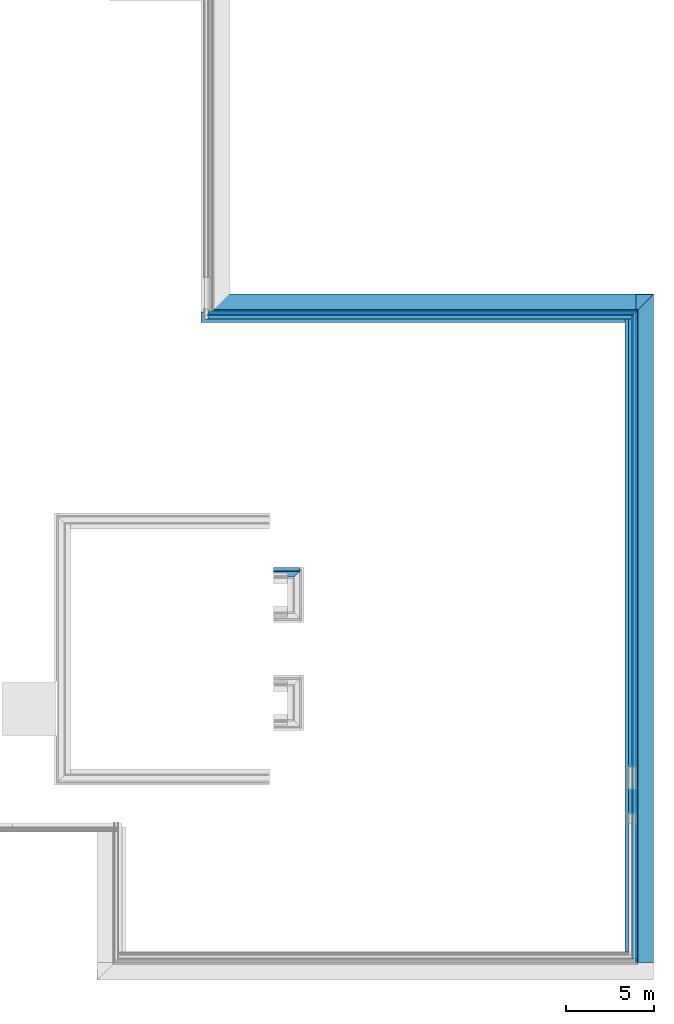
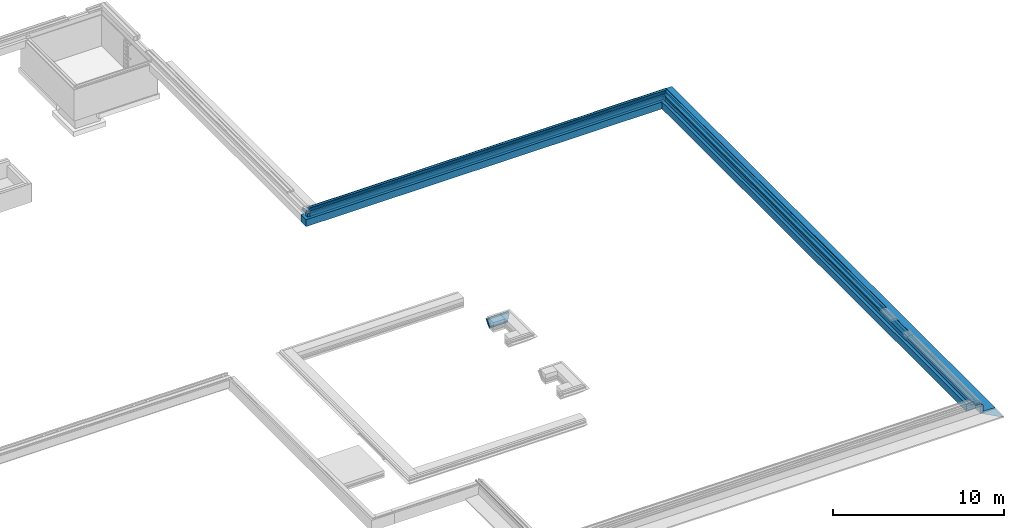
# One storey, part 11 of 17: 32 building element parts, 5 elements without a shape of their own.
"""IFC2X3 building model written with IfcOpenShell, lengths in millimetres."""

from ifc_helpers import new_model, entity, si_unit, converted_unit, derived_unit, money_unit, direction, frame, origin_with_axes, place, context, subcontext, project, spatial, faceted_brep, material, type_object, element, aggregate, save


model = new_model("IFC2X3")

# Units and contexts
model_context = context("Model", 3, precision=0.01, world=origin_with_axes(), true_north=direction((0.0, 1.0)))
body_context = subcontext(model_context, "Body", "Model", "MODEL_VIEW")
ifc_project = project(units=[si_unit("LENGTHUNIT", "METRE", prefix="MILLI"), si_unit("AREAUNIT", "SQUARE_METRE"), si_unit("VOLUMEUNIT", "CUBIC_METRE"), converted_unit("PLANEANGLEUNIT", "DEGREE", entity("IfcPlaneAngleMeasure", 0.0174532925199), si_unit("PLANEANGLEUNIT", "RADIAN"), dimensions=[0, 0, 0, 0, 0, 0, 0]), money_unit("EUR"), converted_unit("TIMEUNIT", "Year", entity("IfcTimeMeasure", 31556926.0), si_unit("TIMEUNIT", "SECOND"), dimensions=[0, 0, 1, 0, 0, 0, 0]), si_unit("MASSUNIT", "GRAM", prefix="KILO"), si_unit("THERMODYNAMICTEMPERATUREUNIT", "DEGREE_CELSIUS"), si_unit("LUMINOUSINTENSITYUNIT", "LUMEN"), si_unit("ENERGYUNIT", "JOULE", prefix="MEGA"), derived_unit("THERMALCONDUCTANCEUNIT", [(si_unit("POWERUNIT", "WATT"), 1), (si_unit("LENGTHUNIT", "METRE"), -1), (si_unit("THERMODYNAMICTEMPERATUREUNIT", "KELVIN"), -1)]), derived_unit("SPECIFICHEATCAPACITYUNIT", [(si_unit("ENERGYUNIT", "JOULE"), 1), (si_unit("MASSUNIT", "GRAM", prefix="KILO"), -1), (si_unit("THERMODYNAMICTEMPERATUREUNIT", "KELVIN"), -1)]), derived_unit("MASSDENSITYUNIT", [(si_unit("MASSUNIT", "GRAM", prefix="KILO"), 1), (si_unit("VOLUMEUNIT", "CUBIC_METRE"), -1)])], contexts=[model_context])

# Site, building, storey
site_placement = place(None, origin_with_axes())
site = spatial("IfcSite", under=ifc_project, at=site_placement, Name="Kolde pst 67a", CompositionType="ELEMENT")
building_placement = place(site_placement, origin_with_axes())
building = spatial("IfcBuilding", under=site, at=building_placement, Name="Riigigümnaasium", CompositionType="ELEMENT")
storey_placement = place(building_placement, frame((0.0, 0.0, -1500.0), z_axis=(0.0, 0.0, 1.0), x_axis=(1.0, 0.0, 0.0)))
storey = spatial("IfcBuildingStorey", under=building, at=storey_placement, Name="Vundament", CompositionType="ELEMENT", Elevation=-1500.0)

# Wall, building element parts
wall_type_1 = type_object("IfcWallType", Name="Lintvundament 1602 x 765", PredefinedType="NOTDEFINED")
wall_1_placement = place(storey_placement, frame((84439.9993279, 40.0, 1479.99999851), z_axis=(0.0, 0.0, 1.0), x_axis=(0.0, 1.0, 0.0)))
wall_1 = element("IfcWall", 1, at=wall_1_placement, inside=storey, type_object=wall_type_1, Name="Vundament")
ifc_material_1 = material(Name="_KANDETARIND - monoliitne raudbetoon vastavalt EK osale")
building_element_part_1_placement = place(wall_1_placement, origin_with_axes())
building_element_part_1 = element("IfcBuildingElementPart", 2, at=building_element_part_1_placement, material=ifc_material_1, Name="_KANDETARIND - monoliitne raudbetoon vastavalt EK osale", context=body_context, shape_type="Brep", body=[
    faceted_brep([(399.942555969, 399.942555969, -750.0), (399.942555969, 399.942555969, -250.0), (36600.0571373, 399.942555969, -250.000008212), (36600.0571373, 399.942555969, -750.0), (399.942555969, -200.057444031, -750.0), (399.942555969, -200.057444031, -250.0), (399.942555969, 0.0, -250.0), (399.942555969, 200.0, -250.0), (36399.9996998, 200.0, -250.0), (36600.0571373, 200.0, -250.000004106), (36600.0571373, 0.0, -250.000004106), (36600.0571373, -200.057444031, -250.000008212), (36600.0571373, -200.057444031, -750.0), (36399.9996998, 0.0, -250.0), (200.0, 0.0, -250.0), (200.0, 200.0, -250.0), (200.0, 200.0, 0.0), (36399.9996998, 200.0, 3.32716632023e-07), (36399.9996998, 0.0, 3.32716632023e-07), (200.0, 0.0, 0.0)], [[[0, 1, 2, 3]], [[1, 0, 4, 5, 6, 7]], [[1, 7, 8, 9, 2]], [[3, 2, 9, 10, 11, 12]], [[0, 3, 12, 4]], [[5, 4, 12, 11]], [[9, 8, 13, 6, 5, 11, 10]], [[14, 15, 7, 6]], [[15, 16, 17, 8, 7]], [[8, 17, 18, 13]], [[14, 6, 13, 18, 19]], [[16, 15, 14, 19]], [[18, 17, 16, 19]]]),
])
ifc_material_2 = material(Name="_SOOJUSTUS - ekstrudeeritud polüstüreenist plaadid XPS 250, survetugevus min 250kPa, soojuserijuhtivus λD<0,036 W/(mK), veeimavus alla 0,2%, näiteks XPS 250 foam SL või samaväärne")
building_element_part_2_placement = place(wall_1_placement, origin_with_axes())
building_element_part_2 = element("IfcBuildingElementPart", 3, at=building_element_part_2_placement, material=ifc_material_2, Name="_SOOJUSTUS - ekstrudeeritud polüstüreenist plaadid XPS 250, survetugevus min 250kPa, soojuserijuhtivus λD<0,036 W/(mK), veeimavus alla 0,2%, näiteks XPS 250 foam SL või samaväärne", context=body_context, shape_type="Brep", body=[
    faceted_brep([(36472.9997011, -3.00000241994, -146.999999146), (-3.00000241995, -3.00000241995, -146.999999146), (-3.00000241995, -3.00000241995, -3.76120343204e-06), (36472.9997011, -3.00000241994, -2.23078100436e-06), (36472.9997011, -73.0000017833, -146.999999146), (-3.00000241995, -73.0000017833, -146.999999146), (-3.00000241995, -73.0000017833, -3.76120343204e-06), (36472.9997011, -73.0000017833, -2.23078100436e-06)], [[[0, 1, 2, 3]], [[0, 4, 5, 1]], [[2, 1, 5, 6]], [[3, 2, 6, 7]], [[4, 0, 3, 7]], [[5, 4, 7, 6]]]),
])
ifc_material_3 = material(Name="_SOOJUSTUS - vahtpolüstüreenplaadid EPS 120 Perimeeter, survetugevus min 120kPa, veeimavus <2%, soojuserijuhtivus λD<0,036 W/(mK)")
building_element_part_3_placement = place(wall_1_placement, origin_with_axes())
building_element_part_3 = element("IfcBuildingElementPart", 4, at=building_element_part_3_placement, material=ifc_material_3, Name="_SOOJUSTUS - vahtpolüstüreenplaadid EPS 120 Perimeeter, survetugevus min 120kPa, veeimavus <2%, soojuserijuhtivus λD<0,036 W/(mK)", context=body_context, shape_type="Brep", body=[
    faceted_brep([(-73.0000013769, -73.0000013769, -146.999999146), (-73.0000013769, -73.0000013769, -2.23078107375e-06), (36622.9997013, -73.0000013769, -1.37334278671e-06), (36622.9997013, -73.0000013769, -146.999999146), (-73.0000013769, -223.000000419, -146.999999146), (-73.0000013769, -223.000000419, -2.23078107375e-06), (36622.9997013, -223.000000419, -1.37334278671e-06), (36622.9997013, -223.000000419, -146.999999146)], [[[0, 1, 2, 3]], [[1, 0, 4, 5]], [[2, 1, 5, 6]], [[3, 2, 6, 7]], [[0, 3, 7, 4]], [[5, 4, 7, 6]]]),
])
building_element_part_4_placement = place(wall_1_placement, origin_with_axes())
building_element_part_4 = element("IfcBuildingElementPart", 5, at=building_element_part_4_placement, material=ifc_material_3, Name="_SOOJUSTUS - vahtpolüstüreenplaadid EPS 120 Perimeeter, survetugevus min 120kPa, veeimavus <2%, soojuserijuhtivus λD<0,036 W/(mK)", context=body_context, shape_type="Brep", body=[
    faceted_brep([(36703.0571403, -303.057446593, -247.000001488), (36703.0571403, -303.057446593, -146.999992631), (-3.00000241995, -303.057446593, -146.99999851), (-3.00000241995, -303.057446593, -247.000001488), (36703.0571403, -3.00000241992, -146.999992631), (36703.0571403, -3.00000241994, -247.000001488), (-3.00000241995, -3.00000241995, -146.99999851), (-3.00000241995, -3.00000241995, -247.000001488)], [[[0, 1, 2, 3]], [[4, 1, 0, 5]], [[1, 4, 6, 2]], [[3, 2, 6, 7]], [[5, 0, 3, 7]], [[4, 5, 7, 6]]]),
])
ifc_material_4 = material(Name="_HÜDROISOLATSIOON - Bituumenvõõp COMBIFLEX-EL vastavalt TL2 nõuetele")
building_element_part_5_placement = place(wall_1_placement, origin_with_axes())
building_element_part_5 = element("IfcBuildingElementPart", 6, at=building_element_part_5_placement, material=ifc_material_4, Name="_HÜDROISOLATSIOON - Bituumenvõõp COMBIFLEX-EL vastavalt TL2 nõuetele", context=body_context, shape_type="Brep", body=[
    faceted_brep([(0.0, 0.0, -250.000008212), (0.0, 0.0, 3.32716632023e-07), (36402.9997022, 0.0, -3.7612034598e-06), (36402.9997022, 0.0, -247.000001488), (36603.0571438, 0.0, -246.99999851), (36603.0571438, 0.0, -250.000008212), (0.0, -200.057437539, -250.000008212), (0.0, -203.057435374, -250.000008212), (0.0, -203.057435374, -247.000001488), (0.0, -2.99999783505, -246.999999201), (0.0, -2.99999783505, 3.32716632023e-07), (36402.9997022, -2.99999783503, -3.7612034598e-06), (36402.9997022, -2.99999783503, -246.999999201), (36603.0571438, -203.057435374, -246.999999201), (36603.0572468, -203.057435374, -729.999997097), (36603.0571342, -203.057435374, -750.000008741), (36603.0571342, -200.057437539, -750.000008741), (36603.0571438, -200.057437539, -250.000008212), (-200.057437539, -200.057437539, -250.000008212), (-200.057437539, -203.057435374, -250.000008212), (-200.057437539, -203.057435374, -729.999997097), (-200.057437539, -203.057435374, -750.000008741), (-200.057437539, -200.057437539, -750.000008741)], [[[0, 1, 2, 3, 4, 5]], [[1, 0, 6, 7, 8, 9, 10]], [[1, 10, 11, 2]], [[3, 2, 11, 12]], [[4, 3, 12, 9, 8, 13]], [[5, 4, 13, 14, 15, 16, 17]], [[0, 5, 17, 6]], [[6, 18, 19, 7]], [[19, 20, 14, 13, 8, 7]], [[12, 11, 10, 9]], [[20, 21, 15, 14]], [[22, 16, 15, 21]], [[22, 18, 6, 17, 16]], [[18, 22, 21, 20, 19]]]),
])
ifc_material_5 = material(Name="_TUULETÕKE - sokli krohv, silikoonvaikkrohv Weber.pas 481 AquaBalance 1mm \"scratch\" viimistlus, toon helehall CL444 (S 3502-Y) * 35, SILS süsteem, või samaväärne")
building_element_part_6_placement = place(wall_1_placement, origin_with_axes())
building_element_part_6 = element("IfcBuildingElementPart", 7, at=building_element_part_6_placement, material=ifc_material_5, Name="_TUULETÕKE - sokli krohv, silikoonvaikkrohv Weber.pas 481 AquaBalance 1mm \"scratch\" viimistlus, toon helehall CL444 (S 3502-Y) * 35, SILS süsteem, või samaväärne", context=body_context, shape_type="Brep", body=[
    faceted_brep([(-223.000001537, -223.000001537, -146.999999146), (-223.000001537, -223.000001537, -1.37334278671e-06), (36632.9997125, -223.000001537, 3.32716632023e-07), (36632.9997023, -223.000001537, -146.999999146), (-223.000001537, -233.000001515, -146.999999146), (-223.000001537, -233.00000247, -30.0000036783), (-223.000001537, -233.000001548, -1.37334278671e-06), (36632.9997125, -233.000001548, 3.32716632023e-07), (36632.9997125, -233.000002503, -29.9999875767), (36632.9997023, -233.000001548, -146.999999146)], [[[0, 1, 2, 3]], [[1, 0, 4, 5, 6]], [[2, 1, 6, 7]], [[3, 2, 7, 8, 9]], [[0, 3, 9, 4]], [[5, 4, 9, 8]], [[6, 5, 8, 7]]]),
])
ifc_material_6 = material(Name="_HÜDROISOLATSIOON - tsemendil baseeruv ühekomponentne hüdroisolatsioon hüdroisoleerimiseks sokli krohvi pealt, ülevärvitud silikoonvaikvärviga sokli krohvi tooni, Weber.tec 824 ja Weber.ton 411 AquaBalance toon CL444 (S 3502-Y) * 35 või samaväärne")
building_element_part_7_placement = place(wall_1_placement, origin_with_axes())
building_element_part_7 = element("IfcBuildingElementPart", 8, at=building_element_part_7_placement, material=ifc_material_6, Name="_HÜDROISOLATSIOON - tsemendil baseeruv ühekomponentne hüdroisolatsioon hüdroisoleerimiseks sokli krohvi pealt, ülevärvitud silikoonvaikvärviga sokli krohvi tooni, Weber.tec 824 ja Weber.ton 411 AquaBalance toon CL444 (S 3502-Y) * 35 või samaväärne", context=body_context, shape_type="Brep", body=[
    faceted_brep([(-233.000002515, -233.000002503, -147.000002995), (-233.000002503, -233.000002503, -30.0000036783), (36634.9996932, -233.000002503, -29.9999946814), (36634.9996932, -233.000002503, -146.999992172), (-233.000002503, -234.99999634, -146.999993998), (-233.000002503, -234.99999634, -30.0000036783), (36634.9996932, -234.99999634, -29.9999946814), (36634.9996932, -234.99999634, -146.999992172)], [[[0, 1, 2, 3]], [[1, 0, 4, 5]], [[2, 1, 5, 6]], [[3, 2, 6, 7]], [[0, 3, 7, 4]], [[5, 4, 7, 6]]]),
])
building_element_part_8_placement = place(wall_1_placement, origin_with_axes())
building_element_part_8 = element("IfcBuildingElementPart", 9, at=building_element_part_8_placement, material=ifc_material_3, Name="_SOOJUSTUS - vahtpolüstüreenplaadid EPS 120 Perimeeter, survetugevus min 120kPa, veeimavus <2%, soojuserijuhtivus λD<0,036 W/(mK)", context=body_context, shape_type="Brep", body=[
    faceted_brep([(36703.05714, -303.057446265, -629.93015656), (36703.05714, -303.057446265, -247.000001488), (-203.057444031, -303.057446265, -246.99999851), (-203.057444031, -303.057446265, -629.930162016), (-303.057446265, -303.057446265, -633.422240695), (36703.0572638, -303.057446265, -633.422240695), (36703.05714, -203.057444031, -247.000001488), (36703.05714, -203.057444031, -629.93015656), (-203.057444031, -203.057444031, -246.99999851), (-203.057444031, -203.057444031, -629.930162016)], [[[0, 1, 2, 3, 4, 5]], [[6, 1, 0, 7]], [[1, 6, 8, 2]], [[9, 3, 2, 8]], [[4, 3, 9]], [[5, 4, 9, 7]], [[7, 0, 5]], [[6, 7, 9, 8]]]),
])
ifc_material_7 = material(Name="_ALUSKATE - drenaaži- ja kaitsematt geotekstiiliga soojustuse kaitseks, Interplast Iso-Drain 8 Geo või samaväärne")
building_element_part_9_placement = place(wall_1_placement, origin_with_axes())
building_element_part_9 = element("IfcBuildingElementPart", 10, at=building_element_part_9_placement, material=ifc_material_7, Name="_ALUSKATE - drenaaži- ja kaitsematt geotekstiiliga soojustuse kaitseks, Interplast Iso-Drain 8 Geo või samaväärne", context=body_context, shape_type="Brep", body=[
    faceted_brep([(-234.999993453, -245.000004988, -137.03058496), (-234.999993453, -313.057436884, -137.03058496), (36713.0571519, -313.057436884, -137.03058496), (36713.0571519, -245.000004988, -137.03058496), (36644.9996942, -245.000004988, -137.03058496), (-234.999993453, -313.057436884, -146.999992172), (-234.999993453, -245.000004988, -29.9999946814), (-234.999993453, -234.999993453, -29.9999946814), (-234.999993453, -234.999993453, -146.999992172), (-234.999993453, -303.057440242, -146.999992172), (-303.05744035, -313.057436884, -146.999999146), (-303.057440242, -313.057436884, -629.93015656), (-303.057564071, -313.057436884, -633.422240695), (-313.057436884, -313.057436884, -633.771447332), (36713.0571519, -313.057436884, -633.771442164), (36713.0571519, -303.057440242, -633.422236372), (36713.0571519, -303.057440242, -146.999992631), (36713.0571519, -234.999993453, -146.999992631), (36713.0571519, -234.999993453, -137.03058496), (36644.9996942, -234.999993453, -137.03058496), (36644.9996942, -245.000004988, -29.9999875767), (36644.9996942, -234.999993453, -29.9999875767), (-303.05744035, -303.057440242, -146.999999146), (-303.057440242, -303.057440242, -629.93015656), (-303.057564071, -303.057440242, -633.422240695)], [[[0, 1, 2, 3, 4]], [[5, 1, 0, 6, 7, 8, 9]], [[5, 10, 11, 12, 13, 14, 2, 1]], [[3, 2, 14, 15, 16, 17, 18]], [[3, 18, 19, 4]], [[6, 0, 4, 20]], [[7, 6, 20, 21]], [[8, 7, 21, 19, 18, 17]], [[9, 8, 17, 16]], [[10, 5, 9, 22]], [[10, 22, 23, 11]], [[24, 12, 11, 23]], [[12, 24, 13]], [[13, 24, 15, 14]], [[22, 9, 16, 15, 24, 23]], [[20, 4, 19, 21]]]),
])
building_element_part_10_placement = place(wall_1_placement, origin_with_axes())
building_element_part_10 = element("IfcBuildingElementPart", 11, at=building_element_part_10_placement, material=ifc_material_3, Name="_SOOJUSTUS - vahtpolüstüreenplaadid EPS 120 Perimeeter, survetugevus min 120kPa, veeimavus <2%, soojuserijuhtivus λD<0,036 W/(mK)", context=body_context, shape_type="Brep", body=[
    faceted_brep([(36713.0571366, -203.057444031, -633.771447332), (36603.0571438, -203.057444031, -629.930162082), (36713.0571366, -313.057436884, -633.771447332), (37602.4655769, -1202.46588158, -664.830280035), (37602.4655769, -203.057444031, -664.830280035), (37600.1897963, -203.057444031, -729.999997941), (-203.057444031, -203.057444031, -729.999997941), (-203.057444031, -203.057444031, -629.93015656), (-203.057444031, -313.057436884, -633.771447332), (-203.057444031, -1202.46588158, -664.830280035), (37598.9756209, -1198.97593138, -764.769370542), (-1198.97593138, -1198.97593138, -764.769370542), (-203.057444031, -1200.19010474, -729.999997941)], [[[0, 1, 2, 3, 4]], [[1, 0, 4, 5, 6, 7]], [[1, 7, 8, 2]], [[8, 9, 3, 2]], [[4, 3, 10, 5]], [[11, 6, 5, 10]], [[12, 9, 8, 7, 6]], [[11, 10, 3, 9, 12]], [[6, 11, 12]]]),
])
aggregate(wall_1, [building_element_part_1, building_element_part_2, building_element_part_3, building_element_part_4, building_element_part_5, building_element_part_6, building_element_part_7, building_element_part_8, building_element_part_9, building_element_part_10])

wall_2_placement = place(storey_placement, frame((84439.9993279, 36439.9996998, 1479.99999851), z_axis=(0.0, 0.0, 1.0), x_axis=(-1.0, 0.0, 0.0)))
wall_2 = element("IfcWall", 12, at=wall_2_placement, inside=storey, type_object=wall_type_1, Name="Vundament")
building_element_part_11_placement = place(wall_2_placement, origin_with_axes())
building_element_part_11 = element("IfcBuildingElementPart", 13, at=building_element_part_11_placement, material=ifc_material_1, Name="_KANDETARIND - monoliitne raudbetoon vastavalt EK osale", context=body_context, shape_type="Brep", body=[
    faceted_brep([(200.0, 200.0, 0.0), (200.0, 0.0, 0.0), (24200.0051976, 0.0, 3.32716632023e-07), (24200.0051976, 200.0, 3.32716632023e-07), (200.0, 200.0, -250.0), (200.0, 0.0, -250.0), (399.942555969, 0.0, -250.0), (24200.0051976, 0.0, -249.999997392), (24200.0051976, 200.0, -249.999997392), (399.942555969, 200.0, -250.0), (24399.9477572, -200.057444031, -249.999997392), (24399.9477572, 200.0, -249.999997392), (399.942555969, -200.057444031, -250.0), (24399.9477572, 399.942555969, -249.999997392), (399.942555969, 399.942555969, -250.0), (399.942555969, 399.942555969, -750.0), (399.942555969, -200.057444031, -750.0), (24399.9477572, 399.942555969, -749.999992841), (24399.9477572, -200.057444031, -749.999992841)], [[[0, 1, 2, 3]], [[1, 0, 4, 5]], [[1, 5, 6, 7, 2]], [[7, 8, 3, 2]], [[0, 3, 8, 9, 4]], [[6, 5, 4, 9]], [[10, 11, 8, 7, 6, 12]], [[13, 14, 9, 8, 11]], [[9, 14, 15, 16, 12, 6]], [[17, 13, 11, 10, 18]], [[12, 16, 18, 10]], [[14, 13, 17, 15]], [[16, 15, 17, 18]]]),
])
building_element_part_12_placement = place(wall_2_placement, origin_with_axes())
building_element_part_12 = element("IfcBuildingElementPart", 14, at=building_element_part_12_placement, material=ifc_material_2, Name="_SOOJUSTUS - ekstrudeeritud polüstüreenist plaadid XPS 250, survetugevus min 250kPa, soojuserijuhtivus λD<0,036 W/(mK), veeimavus alla 0,2%, näiteks XPS 250 foam SL või samaväärne", context=body_context, shape_type="Brep", body=[
    faceted_brep([(23997.0052079, -3.00000241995, -146.999999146), (23997.0052079, -3.00000241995, -2.35946218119e-06), (23997.0052079, -73.0000017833, -2.35946218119e-06), (23997.0052079, -73.0000017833, -146.999999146), (-3.00000241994, -3.00000241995, -146.999999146), (-3.00000241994, -3.00000241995, -3.76120343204e-06), (-3.00000241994, -73.0000017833, -3.76120343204e-06), (-3.00000241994, -73.0000017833, -146.999999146)], [[[0, 1, 2, 3]], [[1, 0, 4, 5]], [[2, 1, 5, 6]], [[3, 2, 6, 7]], [[0, 3, 7, 4]], [[5, 4, 7, 6]]]),
])
building_element_part_13_placement = place(wall_2_placement, origin_with_axes())
building_element_part_13 = element("IfcBuildingElementPart", 15, at=building_element_part_13_placement, material=ifc_material_3, Name="_SOOJUSTUS - vahtpolüstüreenplaadid EPS 120 Perimeeter, survetugevus min 120kPa, veeimavus <2%, soojuserijuhtivus λD<0,036 W/(mK)", context=body_context, shape_type="Brep", body=[
    faceted_brep([(23927.0052039, -73.0000013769, -146.999999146), (23927.0052039, -223.000000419, -146.999999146), (-73.0000013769, -223.000000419, -146.999999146), (-73.0000013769, -73.0000013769, -146.999999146), (23927.0052039, -73.0000013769, -3.76120343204e-06), (23927.0052039, -223.000000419, -3.76120343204e-06), (-73.0000013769, -223.000000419, -2.23078100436e-06), (-73.0000013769, -73.0000013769, -2.23078100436e-06)], [[[0, 1, 2, 3]], [[0, 4, 5, 1]], [[1, 5, 6, 2]], [[7, 3, 2, 6]], [[4, 0, 3, 7]], [[5, 4, 7, 6]]]),
])
building_element_part_14_placement = place(wall_2_placement, origin_with_axes())
building_element_part_14 = element("IfcBuildingElementPart", 16, at=building_element_part_14_placement, material=ifc_material_3, Name="_SOOJUSTUS - vahtpolüstüreenplaadid EPS 120 Perimeeter, survetugevus min 120kPa, veeimavus <2%, soojuserijuhtivus λD<0,036 W/(mK)", context=body_context, shape_type="Brep", body=[
    faceted_brep([(23997.0052092, -303.057446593, -246.999998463), (23997.0052092, -303.057446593, -146.999999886), (-3.00000241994, -303.057446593, -146.99999851), (-3.00000241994, -303.057446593, -247.000001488), (23997.0052092, -3.00000241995, -146.999999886), (23997.0052092, -3.00000241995, -246.999998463), (-3.00000241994, -3.00000241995, -146.99999851), (-3.00000241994, -3.00000241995, -247.000001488)], [[[0, 1, 2, 3]], [[4, 1, 0, 5]], [[1, 4, 6, 2]], [[6, 7, 3, 2]], [[5, 0, 3, 7]], [[4, 5, 7, 6]]]),
])
building_element_part_15_placement = place(wall_2_placement, origin_with_axes())
building_element_part_15 = element("IfcBuildingElementPart", 17, at=building_element_part_15_placement, material=ifc_material_4, Name="_HÜDROISOLATSIOON - Bituumenvõõp COMBIFLEX-EL vastavalt TL2 nõuetele", context=body_context, shape_type="Brep", body=[
    faceted_brep([(24000.0052057, -2.99999783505, 0.0), (0.0, -2.99999783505, 8.81641959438e-06), (0.0, -2.99999783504, -247.000001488), (24000.0052057, -2.99999783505, -247.000001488), (24000.0052057, 0.0, 0.0), (0.0, 0.0, 8.81641959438e-06), (0.0, 0.0, -250.000008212), (0.0, -200.057437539, -250.000008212), (0.0, -203.057435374, -250.000008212), (0.0, -203.057435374, -247.000001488), (24000.0052057, -203.057435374, -247.000001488), (24000.0052057, -203.057435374, -250.0), (24000.0052057, 0.0, -250.0), (23799.9477617, -203.057435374, -250.0), (23799.9477617, -200.057437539, -250.0), (-200.057437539, -200.057437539, -250.000008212), (-200.057437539, -203.057435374, -250.000008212), (-200.057437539, -203.057435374, -729.999995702), (23799.9477617, -203.057435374, -729.999995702), (23799.9477617, -200.057437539, -750.0), (23799.9477617, -203.057435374, -750.0), (-200.057437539, -200.057437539, -750.000008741), (-200.057437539, -203.057435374, -750.000008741)], [[[0, 1, 2, 3]], [[0, 4, 5, 1]], [[2, 1, 5, 6, 7, 8, 9]], [[10, 3, 2, 9]], [[4, 0, 3, 10, 11, 12]], [[4, 12, 6, 5]], [[13, 14, 7, 6, 12, 11]], [[15, 16, 8, 7]], [[11, 10, 9, 8, 16, 17, 18, 13]], [[19, 14, 13, 18, 20]], [[7, 14, 19, 21, 15]], [[22, 17, 16, 15, 21]], [[20, 18, 17, 22]], [[19, 20, 22, 21]]]),
])
building_element_part_16_placement = place(wall_2_placement, origin_with_axes())
building_element_part_16 = element("IfcBuildingElementPart", 18, at=building_element_part_16_placement, material=ifc_material_5, Name="_TUULETÕKE - sokli krohv, silikoonvaikkrohv Weber.pas 481 AquaBalance 1mm \"scratch\" viimistlus, toon helehall CL444 (S 3502-Y) * 35, SILS süsteem, või samaväärne", context=body_context, shape_type="Brep", body=[
    faceted_brep([(-223.000001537, -223.000001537, -146.999999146), (23777.0052053, -223.000001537, -146.999999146), (23777.0052053, -233.000001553, -146.999999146), (-223.000001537, -233.000001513, -146.999999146), (-223.000001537, -223.000001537, -1.37334278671e-06), (23777.0052053, -223.000001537, -2.23078099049e-06), (23777.0052053, -233.000001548, -2.23078099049e-06), (23777.0052053, -233.000002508, -30.0000036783), (-223.000001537, -233.000002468, -30.0000036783), (-223.000001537, -233.000001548, -1.37334278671e-06)], [[[0, 1, 2, 3]], [[1, 0, 4, 5]], [[1, 5, 6, 7, 2]], [[7, 8, 3, 2]], [[4, 0, 3, 8, 9]], [[5, 4, 9, 6]], [[8, 7, 6, 9]]]),
])
building_element_part_17_placement = place(wall_2_placement, origin_with_axes())
building_element_part_17 = element("IfcBuildingElementPart", 19, at=building_element_part_17_placement, material=ifc_material_6, Name="_HÜDROISOLATSIOON - tsemendil baseeruv ühekomponentne hüdroisolatsioon hüdroisoleerimiseks sokli krohvi pealt, ülevärvitud silikoonvaikvärviga sokli krohvi tooni, Weber.tec 824 ja Weber.ton 411 AquaBalance toon CL444 (S 3502-Y) * 35 või samaväärne", context=body_context, shape_type="Brep", body=[
    faceted_brep([(23767.0052032, -233.000002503, -30.0000036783), (23767.0052042, -233.000002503, -146.999999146), (-233.000002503, -233.000002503, -147.000002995), (-233.000002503, -233.000002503, -30.0000036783), (23767.0052032, -234.99999634, -30.0000036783), (23767.0052042, -234.99999634, -146.999993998), (-233.000002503, -234.99999634, -146.999993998), (-233.000002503, -234.99999634, -30.0000036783)], [[[0, 1, 2, 3]], [[1, 0, 4, 5]], [[1, 5, 6, 2]], [[3, 2, 6, 7]], [[4, 0, 3, 7]], [[5, 4, 7, 6]]]),
])
building_element_part_18_placement = place(wall_2_placement, origin_with_axes())
building_element_part_18 = element("IfcBuildingElementPart", 20, at=building_element_part_18_placement, material=ifc_material_3, Name="_SOOJUSTUS - vahtpolüstüreenplaadid EPS 120 Perimeeter, survetugevus min 120kPa, veeimavus <2%, soojuserijuhtivus λD<0,036 W/(mK)", context=body_context, shape_type="Brep", body=[
    faceted_brep([(23796.9477703, -303.057446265, -629.93015656), (23796.9477703, -303.057446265, -246.999999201), (-203.057444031, -303.057446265, -246.99999851), (-203.057444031, -303.057446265, -629.930162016), (-303.057446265, -303.057446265, -633.422240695), (23696.9477219, -303.057446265, -633.422240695), (23796.9477703, -203.057444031, -246.999999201), (23796.9477703, -203.057444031, -629.93015656), (-203.057444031, -203.057444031, -246.99999851), (-203.057444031, -203.057444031, -629.930162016)], [[[0, 1, 2, 3, 4, 5]], [[6, 1, 0, 7]], [[1, 6, 8, 2]], [[8, 9, 3, 2]], [[9, 4, 3]], [[7, 5, 4, 9]], [[7, 0, 5]], [[6, 7, 9, 8]]]),
])
building_element_part_19_placement = place(wall_2_placement, origin_with_axes())
building_element_part_19 = element("IfcBuildingElementPart", 21, at=building_element_part_19_placement, material=ifc_material_7, Name="_ALUSKATE - drenaaži- ja kaitsematt geotekstiiliga soojustuse kaitseks, Interplast Iso-Drain 8 Geo või samaväärne", context=body_context, shape_type="Brep", body=[
    faceted_brep([(-234.999993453, -234.999993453, -29.9999946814), (-234.999993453, -234.999993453, -146.999992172), (-234.999993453, -303.057440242, -146.999992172), (-234.999993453, -313.057436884, -146.999992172), (-234.999993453, -313.057436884, -137.030584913), (-234.999993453, -245.000004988, -137.03058493), (-234.999993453, -245.000004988, -29.9999946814), (23765.0052094, -234.999993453, -146.999992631), (23765.0052094, -234.999993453, -29.9999946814), (23765.0052094, -313.057436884, -146.999993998), (23696.9477591, -313.057436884, -146.99999851), (23696.9477591, -303.057440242, -146.99999851), (-303.057440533, -303.057440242, -146.999992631), (-303.057440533, -313.057436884, -146.999992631), (23696.9477219, -313.057436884, -633.422240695), (23765.0052094, -313.057436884, -137.030570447), (-303.057440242, -313.057436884, -633.422236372), (-313.057452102, -313.057436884, -633.771442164), (23686.9478084, -313.057436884, -633.77144595), (23765.0052094, -245.000004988, -137.030570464), (23765.0052094, -245.000004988, -29.9999946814), (23696.9477219, -303.057529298, -633.422240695), (-303.057440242, -303.057477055, -633.422236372)], [[[0, 1, 2, 3, 4, 5, 6]], [[7, 1, 0, 8]], [[1, 7, 9, 10, 11, 2]], [[2, 12, 13, 3]], [[14, 10, 9, 15, 4, 3, 13, 16, 17, 18]], [[15, 19, 5, 4]], [[19, 20, 6, 5]], [[20, 8, 0, 6]], [[7, 8, 20, 19, 15, 9]], [[21, 11, 10, 14]], [[11, 21, 22, 12, 2]], [[12, 22, 16, 13]], [[22, 17, 16]], [[21, 18, 17, 22]], [[18, 21, 14]]]),
])
building_element_part_20_placement = place(wall_2_placement, origin_with_axes())
building_element_part_20 = element("IfcBuildingElementPart", 22, at=building_element_part_20_placement, material=ifc_material_3, Name="_SOOJUSTUS - vahtpolüstüreenplaadid EPS 120 Perimeeter, survetugevus min 120kPa, veeimavus <2%, soojuserijuhtivus λD<0,036 W/(mK)", context=body_context, shape_type="Brep", body=[
    faceted_brep([(23796.9477703, -203.057444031, -729.999997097), (23796.9477703, -203.057444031, -629.93015656), (23796.9477703, -313.057436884, -633.771447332), (23796.9477703, -1202.46588158, -664.83026949), (23796.9477703, -1200.19010466, -729.999997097), (-203.057444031, -203.057444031, -729.999997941), (-203.057444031, -203.057444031, -629.93015656), (-203.057444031, -313.057436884, -633.771447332), (-203.057444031, -1202.46588158, -664.830279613), (22801.0292845, -1198.97593138, -764.769370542), (23224.0762248, -1199.49168939, -750.000015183), (-203.057444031, -1200.19010474, -729.999997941), (-1198.97593138, -1198.97593138, -764.769370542), (23224.0762248, -775.928427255, -750.000015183)], [[[0, 1, 2, 3, 4]], [[1, 0, 5, 6]], [[1, 6, 7, 2]], [[8, 3, 2, 7]], [[9, 10, 4, 3, 8, 11, 12]], [[4, 10, 9, 13, 0]], [[12, 5, 0, 13, 9]], [[11, 8, 7, 6, 5]], [[5, 12, 11]]]),
])
aggregate(wall_2, [building_element_part_11, building_element_part_12, building_element_part_13, building_element_part_14, building_element_part_15, building_element_part_16, building_element_part_17, building_element_part_18, building_element_part_19, building_element_part_20])

wall_type_2 = type_object("IfcWallType", Name="garderoobi plaadipaksendus 916 x 700", PredefinedType="NOTDEFINED")
wall_3_placement = place(storey_placement, frame((65234.7567149, 21565.0400555, 1095.0000029), z_axis=(0.0, 0.0, 1.0), x_axis=(-0.999999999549, -3.00179615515e-05, 0.0)))
wall_3 = element("IfcWall", 23, at=wall_3_placement, inside=storey, type_object=wall_type_2, Name="Vundament")
ifc_material_8 = material(Name="_TÄIDE - tasandus-/tugevduskiht, pinnasesse tambitud killustik E=80MPa, kiilutud fr 4/16")
building_element_part_21_placement = place(wall_3_placement, origin_with_axes())
building_element_part_21 = element("IfcBuildingElementPart", 24, at=building_element_part_21_placement, material=ifc_material_8, Name="_TÄIDE - tasandus-/tugevduskiht, pinnasesse tambitud killustik E=80MPa, kiilutud fr 4/16", context=body_context, shape_type="Brep", body=[
    faceted_brep([(1095.13324255, -408.494810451, 54.7999994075), (1095.13324563, -458.494810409, 104.800001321), (-387.784115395, -458.494810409, 104.79999534), (-337.78411826, -408.494807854, 54.7999963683), (1095.13324127, -387.784135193, 104.800001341), (1095.13323209, -238.694807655, -115.000002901), (1095.13322774, -167.984130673, -115.000002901), (-387.784120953, -387.784135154, 104.799998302), (-87.7845115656, -87.7845160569, -195.199622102), (-87.784508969, -158.495187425, -195.199622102), (-87.8015679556, -158.454013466, -195.240796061), (-87.7845119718, -158.454012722, -195.240796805), (-108.49518756, -108.495186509, -245.199619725), (1105.26673559, -108.495187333, -245.199621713), (1105.26673559, -238.694807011, -115.000002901), (1105.26673559, -167.98413093, -115.000002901), (1105.26673559, -87.7845147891, -195.199619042), (-87.8015705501, -87.8015708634, -195.240796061), (-87.7845145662, -87.8015711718, -195.240796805)], [[[0, 1, 2, 3]], [[4, 1, 0, 5, 6]], [[1, 4, 7, 2]], [[7, 8, 9, 3, 2]], [[5, 0, 3, 9, 10, 11, 12, 13, 14]], [[6, 5, 14, 15]], [[6, 15, 16, 8, 7, 4]], [[10, 9, 8, 17]], [[10, 17, 18, 11]], [[11, 18, 12]], [[8, 16, 13, 12, 18, 17]], [[15, 14, 13, 16]]]),
])
ifc_material_9 = material(Name="_TÄIDE - tasandus-/tugevduskiht, pinnasesse tambitud killustik E=80MPa, fr 16/32")
building_element_part_22_placement = place(wall_3_placement, origin_with_axes())
building_element_part_22 = element("IfcBuildingElementPart", 25, at=building_element_part_22_placement, material=ifc_material_9, Name="_TÄIDE - tasandus-/tugevduskiht, pinnasesse tambitud killustik E=80MPa, fr 16/32", context=body_context, shape_type="Brep", body=[
    faceted_brep([(1095.13324516, -450.826843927, -115.000002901), (1095.13325561, -620.626846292, 54.7999994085), (-408.494787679, -620.626844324, 54.7999963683), (-108.495179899, -320.627223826, -245.199624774), (-170.189288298, -170.586062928, -395.240786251), (-170.304891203, -170.304905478, -395.521944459), (1105.26673559, -170.304905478, -395.521941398), (1105.26673559, -450.826843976, -115.000002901), (1095.13324255, -408.494810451, 54.7999994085), (1095.13323209, -238.694807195, -115.000002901), (-408.494795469, -408.494807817, 54.7999963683), (-108.495187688, -108.495192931, -245.199622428), (-170.189288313, -170.189295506, -395.240786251), (1105.26673559, -170.189294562, -395.24078319), (1105.26673559, -238.694808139, -115.000002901), (1105.26673559, -108.495191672, -245.199619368)], [[[0, 1, 2, 3, 4, 5, 6, 7]], [[8, 1, 0, 9]], [[1, 8, 10, 2]], [[10, 11, 3, 2]], [[4, 3, 11, 12]], [[4, 12, 5]], [[12, 13, 6, 5]], [[14, 7, 6, 13, 15]], [[9, 0, 7, 14]], [[9, 14, 15, 11, 10, 8]], [[11, 15, 13, 12]]]),
])
aggregate(wall_3, [building_element_part_21, building_element_part_22])

wall_type_3 = type_object("IfcWallType", Name="VS-CLT-20/3_sokkel 433", PredefinedType="NOTDEFINED")
wall_4_placement = place(storey_placement, frame((84439.9993279, 36439.9996998, 1480.0), z_axis=(0.0, 0.0, 1.0), x_axis=(-1.0, 0.0, 0.0)))
wall_4 = element("IfcWall", 26, at=wall_4_placement, inside=storey, type_object=wall_type_3, Name="Sokkel")
ifc_material_10 = material(Name="_KANDETARIND - CLT ristkihtliimpuit vastavalt EK osale, CLT paigaldusvuugid teibitakse ROTHOBLAAS teibiga")
building_element_part_23_placement = place(wall_4_placement, origin_with_axes())
building_element_part_23 = element("IfcBuildingElementPart", 27, at=building_element_part_23_placement, material=ifc_material_10, Name="_KANDETARIND - CLT ristkihtliimpuit vastavalt EK osale, CLT paigaldusvuugid teibitakse ROTHOBLAAS teibiga", context=body_context, shape_type="Brep", body=[
    faceted_brep([(24000.0052057, 0.0, 0.0), (0.0, 0.0, 0.0), (0.0, 200.0, 0.0), (24000.0052057, 200.0, 0.0), (24000.0052057, 0.0, 120.0), (0.0, 0.0, 120.0), (0.0, 200.0, 120.0), (24000.0052057, 200.0, 120.0)], [[[0, 1, 2, 3]], [[4, 5, 1, 0]], [[2, 1, 5, 6]], [[3, 2, 6, 7]], [[3, 7, 4, 0]], [[7, 6, 5, 4]]]),
])
ifc_material_11 = material(Name="_HÜDROISOLATSIOON - 3x SBS rullmaterjal vastavalt TL2 nõuetele, nakke tugevduseks betoonpind eelnevalt katta hüdroisolatsiooni bituumenvõõbaga")
building_element_part_24_placement = place(wall_4_placement, origin_with_axes())
building_element_part_24 = element("IfcBuildingElementPart", 28, at=building_element_part_24_placement, material=ifc_material_11, Name="_HÜDROISOLATSIOON - 3x SBS rullmaterjal vastavalt TL2 nõuetele, nakke tugevduseks betoonpind eelnevalt katta hüdroisolatsiooni bituumenvõõbaga", context=body_context, shape_type="Brep", body=[
    faceted_brep([(24000.0052057, -3.0, 0.0), (-3.0, -3.0, 0.0), (-3.0, 0.0, 0.0), (24000.0052057, 0.0, 0.0), (24000.0052057, -3.0, 120.0), (-3.0, -3.0, 120.0), (-3.0, 0.0, 120.0), (24000.0052057, 0.0, 120.0)], [[[0, 1, 2, 3]], [[4, 5, 1, 0]], [[2, 1, 5, 6]], [[3, 2, 6, 7]], [[3, 7, 4, 0]], [[7, 6, 5, 4]]]),
])
building_element_part_25_placement = place(wall_4_placement, origin_with_axes())
building_element_part_25 = element("IfcBuildingElementPart", 29, at=building_element_part_25_placement, material=ifc_material_2, Name="_SOOJUSTUS - ekstrudeeritud polüstüreenist plaadid XPS 250, survetugevus min 250kPa, soojuserijuhtivus λD<0,036 W/(mK), veeimavus alla 0,2%, näiteks XPS 250 foam SL või samaväärne", context=body_context, shape_type="Brep", body=[
    faceted_brep([(23997.0052057, -73.0, 0.0), (-73.0, -73.0, 0.0), (-73.0, -3.0, 0.0), (23997.0052057, -3.0, 0.0), (23997.0052057, -73.0, 120.0), (-73.0, -73.0, 120.0), (-73.0, -3.0, 120.0), (23997.0052057, -3.0, 120.0)], [[[0, 1, 2, 3]], [[4, 5, 1, 0]], [[2, 1, 5, 6]], [[3, 2, 6, 7]], [[3, 7, 4, 0]], [[7, 6, 5, 4]]]),
])
building_element_part_26_placement = place(wall_4_placement, origin_with_axes())
building_element_part_26 = element("IfcBuildingElementPart", 30, at=building_element_part_26_placement, material=ifc_material_3, Name="_SOOJUSTUS - vahtpolüstüreenplaadid EPS 120 Perimeeter, survetugevus min 120kPa, veeimavus <2%, soojuserijuhtivus λD<0,036 W/(mK)", context=body_context, shape_type="Brep", body=[
    faceted_brep([(23927.0052057, -223.0, 0.0), (-223.0, -223.0, 0.0), (-223.0, -73.0, 0.0), (23927.0052057, -73.0, 0.0), (23927.0052057, -223.0, 120.0), (-223.0, -223.0, 120.0), (-223.0, -73.0, 120.0), (23927.0052057, -73.0, 120.0)], [[[0, 1, 2, 3]], [[4, 5, 1, 0]], [[2, 1, 5, 6]], [[3, 2, 6, 7]], [[3, 7, 4, 0]], [[7, 6, 5, 4]]]),
])
building_element_part_27_placement = place(wall_4_placement, origin_with_axes())
building_element_part_27 = element("IfcBuildingElementPart", 31, at=building_element_part_27_placement, material=ifc_material_5, Name="_TUULETÕKE - sokli krohv, silikoonvaikkrohv Weber.pas 481 AquaBalance 1mm \"scratch\" viimistlus, toon helehall CL444 (S 3502-Y) * 35, SILS süsteem, või samaväärne", context=body_context, shape_type="Brep", body=[
    faceted_brep([(23777.0052057, -233.0, 0.0), (-233.0, -233.0, 0.0), (-233.0, -223.0, 0.0), (23777.0052057, -223.0, 0.0), (23777.0052057, -233.0, 120.0), (-233.0, -233.0, 120.0), (-233.0, -223.0, 120.0), (23777.0052057, -223.0, 120.0)], [[[0, 1, 2, 3]], [[4, 5, 1, 0]], [[2, 1, 5, 6]], [[3, 2, 6, 7]], [[3, 7, 4, 0]], [[7, 6, 5, 4]]]),
])
aggregate(wall_4, [building_element_part_23, building_element_part_24, building_element_part_25, building_element_part_26, building_element_part_27])

wall_5_placement = place(storey_placement, frame((84439.9993279, 10899.9619407, 1480.0), z_axis=(0.0, 0.0, 1.0), x_axis=(0.0, 1.0, 0.0)))
wall_5 = element("IfcWall", 32, at=wall_5_placement, inside=storey, type_object=wall_type_3, Name="Sokkel")
building_element_part_28_placement = place(wall_5_placement, origin_with_axes())
building_element_part_28 = element("IfcBuildingElementPart", 33, at=building_element_part_28_placement, material=ifc_material_10, Name="_KANDETARIND - CLT ristkihtliimpuit vastavalt EK osale, CLT paigaldusvuugid teibitakse ROTHOBLAAS teibiga", context=body_context, shape_type="Brep", body=[
    faceted_brep([(25340.0377591, 0.0, 0.0), (0.0, 0.0, 0.0), (0.0, 200.0, 0.0), (25340.0377591, 200.0, 0.0), (25340.0377591, 0.0, 120.0), (0.0, 0.0, 120.0), (0.0, 200.0, 120.0), (25340.0377591, 200.0, 120.0)], [[[0, 1, 2, 3]], [[4, 5, 1, 0]], [[2, 1, 5, 6]], [[3, 2, 6, 7]], [[3, 7, 4, 0]], [[7, 6, 5, 4]]]),
])
building_element_part_29_placement = place(wall_5_placement, origin_with_axes())
building_element_part_29 = element("IfcBuildingElementPart", 34, at=building_element_part_29_placement, material=ifc_material_11, Name="_HÜDROISOLATSIOON - 3x SBS rullmaterjal vastavalt TL2 nõuetele, nakke tugevduseks betoonpind eelnevalt katta hüdroisolatsiooni bituumenvõõbaga", context=body_context, shape_type="Brep", body=[
    faceted_brep([(25540.0377591, -2.99999999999, 0.0), (0.0, -3.0, 0.0), (0.0, 0.0, 0.0), (25540.0377591, 0.0, 0.0), (25540.0377591, -2.99999999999, 120.0), (0.0, -3.0, 120.0), (0.0, 0.0, 120.0), (25540.0377591, 0.0, 120.0)], [[[0, 1, 2, 3]], [[4, 5, 1, 0]], [[2, 1, 5, 6]], [[3, 2, 6, 7]], [[3, 7, 4, 0]], [[7, 6, 5, 4]]]),
])
building_element_part_30_placement = place(wall_5_placement, origin_with_axes())
building_element_part_30 = element("IfcBuildingElementPart", 35, at=building_element_part_30_placement, material=ifc_material_2, Name="_SOOJUSTUS - ekstrudeeritud polüstüreenist plaadid XPS 250, survetugevus min 250kPa, soojuserijuhtivus λD<0,036 W/(mK), veeimavus alla 0,2%, näiteks XPS 250 foam SL või samaväärne", context=body_context, shape_type="Brep", body=[
    faceted_brep([(25543.0377591, -73.0, 0.0), (0.0, -73.0, 0.0), (0.0, -3.0, 0.0), (25543.0377591, -2.99999999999, 0.0), (25543.0377591, -73.0, 120.0), (0.0, -73.0, 120.0), (0.0, -3.0, 120.0), (25543.0377591, -2.99999999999, 120.0)], [[[0, 1, 2, 3]], [[4, 5, 1, 0]], [[2, 1, 5, 6]], [[3, 2, 6, 7]], [[3, 7, 4, 0]], [[7, 6, 5, 4]]]),
])
building_element_part_31_placement = place(wall_5_placement, origin_with_axes())
building_element_part_31 = element("IfcBuildingElementPart", 36, at=building_element_part_31_placement, material=ifc_material_3, Name="_SOOJUSTUS - vahtpolüstüreenplaadid EPS 120 Perimeeter, survetugevus min 120kPa, veeimavus <2%, soojuserijuhtivus λD<0,036 W/(mK)", context=body_context, shape_type="Brep", body=[
    faceted_brep([(25613.0377591, -223.0, 0.0), (0.0, -223.0, 0.0), (0.0, -73.0, 0.0), (25613.0377591, -73.0, 0.0), (25613.0377591, -223.0, 120.0), (0.0, -223.0, 120.0), (0.0, -73.0, 120.0), (25613.0377591, -73.0, 120.0)], [[[0, 1, 2, 3]], [[4, 5, 1, 0]], [[2, 1, 5, 6]], [[3, 2, 6, 7]], [[3, 7, 4, 0]], [[7, 6, 5, 4]]]),
])
building_element_part_32_placement = place(wall_5_placement, origin_with_axes())
building_element_part_32 = element("IfcBuildingElementPart", 37, at=building_element_part_32_placement, material=ifc_material_5, Name="_TUULETÕKE - sokli krohv, silikoonvaikkrohv Weber.pas 481 AquaBalance 1mm \"scratch\" viimistlus, toon helehall CL444 (S 3502-Y) * 35, SILS süsteem, või samaväärne", context=body_context, shape_type="Brep", body=[
    faceted_brep([(25763.0377591, -233.0, 0.0), (0.0, -233.0, 0.0), (0.0, -223.0, 0.0), (25763.0377591, -223.0, 0.0), (25763.0377591, -233.0, 120.0), (0.0, -233.0, 120.0), (0.0, -223.0, 120.0), (25763.0377591, -223.0, 120.0)], [[[0, 1, 2, 3]], [[4, 5, 1, 0]], [[2, 1, 5, 6]], [[3, 2, 6, 7]], [[3, 7, 4, 0]], [[7, 6, 5, 4]]]),
])
aggregate(wall_5, [building_element_part_28, building_element_part_29, building_element_part_30, building_element_part_31, building_element_part_32])

save(model, "model.ifc")
